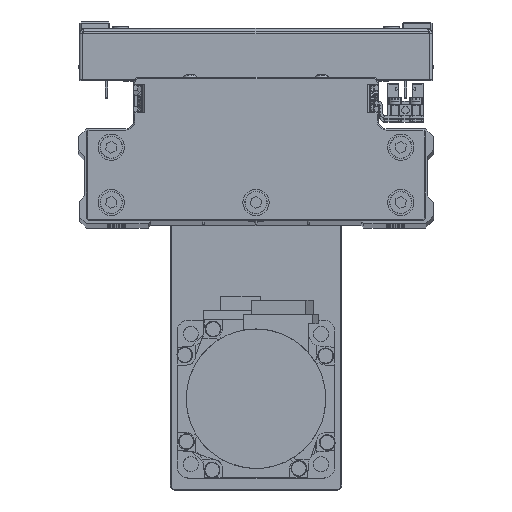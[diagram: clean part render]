
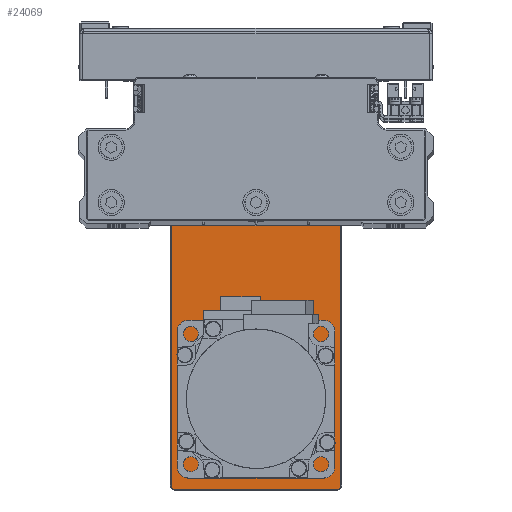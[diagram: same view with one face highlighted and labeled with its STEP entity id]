
A CAD part, top view. The second image highlights one B-rep face of the part: STEP entity #24069.
In plain terms, the highlighted planar face has unit normal (0, 0, 1) as drawn and (0, 1, 0) by its records, which use the part's own axes.
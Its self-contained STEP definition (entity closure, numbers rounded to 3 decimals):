
#402 = CARTESIAN_POINT ( 'NONE',  ( -83.5, 6., 32.2 ) ) ;
#482 = CARTESIAN_POINT ( 'NONE',  ( -83.5, 6., -32.2 ) ) ;
#919 = EDGE_CURVE ( 'NONE', #9835, #16157, #43559, .T. ) ;
#1460 = DIRECTION ( 'NONE',  ( -1., 0., 0. ) ) ;
#1948 = ORIENTED_EDGE ( 'NONE', *, *, #11062, .F. ) ;
#2091 = ORIENTED_EDGE ( 'NONE', *, *, #23127, .T. ) ;
#2442 = EDGE_CURVE ( 'NONE', #38462, #9835, #29918, .T. ) ;
#2772 = EDGE_CURVE ( 'NONE', #26172, #25038, #18299, .T. ) ;
#3177 = CARTESIAN_POINT ( 'NONE',  ( -50.5, 6., 0. ) ) ;
#3279 = EDGE_LOOP ( 'NONE', ( #32937, #19871 ) ) ;
#3344 = VERTEX_POINT ( 'NONE', #482 ) ;
#3359 = CIRCLE ( 'NONE', #28524, 1.2 ) ;
#3902 = EDGE_LOOP ( 'NONE', ( #1948, #34225 ) ) ;
#3959 = EDGE_CURVE ( 'NONE', #25038, #26172, #16116, .T. ) ;
#4128 = VERTEX_POINT ( 'NONE', #26697 ) ;
#4259 = DIRECTION ( 'NONE',  ( 0., 0., -1. ) ) ;
#4936 = VECTOR ( 'NONE', #21776, 1000. ) ;
#5138 = EDGE_CURVE ( 'NONE', #14499, #10305, #26576, .T. ) ;
#5708 = DIRECTION ( 'NONE',  ( 0., 0., -1. ) ) ;
#6251 = DIRECTION ( 'NONE',  ( 0., 1., 0. ) ) ;
#6575 = VERTEX_POINT ( 'NONE', #39435 ) ;
#6668 = CARTESIAN_POINT ( 'NONE',  ( 75.992, 6., -8.551 ) ) ;
#6695 = CARTESIAN_POINT ( 'NONE',  ( 83.5, 6., -31. ) ) ;
#6897 = CARTESIAN_POINT ( 'NONE',  ( -50.5, 6., 0. ) ) ;
#7204 = AXIS2_PLACEMENT_3D ( 'NONE', #3177, #16912, #30634 ) ;
#8076 = CARTESIAN_POINT ( 'NONE',  ( 84.7, 6., 0. ) ) ;
#8118 = VECTOR ( 'NONE', #1460, 1000. ) ;
#8325 = DIRECTION ( 'NONE',  ( 0., 1., 0. ) ) ;
#8755 = EDGE_LOOP ( 'NONE', ( #9513, #40904 ) ) ;
#9080 = PLANE ( 'NONE',  #12822 ) ;
#9175 = CIRCLE ( 'NONE', #34316, 15. ) ;
#9513 = ORIENTED_EDGE ( 'NONE', *, *, #43411, .F. ) ;
#9835 = VERTEX_POINT ( 'NONE', #35256 ) ;
#10305 = VERTEX_POINT ( 'NONE', #39427 ) ;
#10536 = EDGE_CURVE ( 'NONE', #3344, #20674, #3359, .T. ) ;
#10623 = CARTESIAN_POINT ( 'NONE',  ( 83.5, 6., 31. ) ) ;
#11032 = EDGE_CURVE ( 'NONE', #14618, #6575, #17055, .T. ) ;
#11062 = EDGE_CURVE ( 'NONE', #10305, #14499, #9175, .T. ) ;
#11619 = VERTEX_POINT ( 'NONE', #26128 ) ;
#11686 = ORIENTED_EDGE ( 'NONE', *, *, #2442, .T. ) ;
#11909 = CARTESIAN_POINT ( 'NONE',  ( 61.051, 6., 23.492 ) ) ;
#12229 = DIRECTION ( 'NONE',  ( 0., 1., 0. ) ) ;
#12476 = FACE_BOUND ( 'NONE', #3279, .T. ) ;
#12570 = CARTESIAN_POINT ( 'NONE',  ( 52.5, 6., 0. ) ) ;
#12752 = AXIS2_PLACEMENT_3D ( 'NONE', #37078, #6251, #19973 ) ;
#12822 = AXIS2_PLACEMENT_3D ( 'NONE', #22787, #36538, #5708 ) ;
#12840 = DIRECTION ( 'NONE',  ( 1., 0., 0. ) ) ;
#12980 = EDGE_CURVE ( 'NONE', #20674, #40880, #16223, .T. ) ;
#13479 = CARTESIAN_POINT ( 'NONE',  ( -83.5, 6., -31. ) ) ;
#14499 = VERTEX_POINT ( 'NONE', #30618 ) ;
#14618 = VERTEX_POINT ( 'NONE', #18028 ) ;
#15913 = EDGE_CURVE ( 'NONE', #6575, #3344, #18564, .T. ) ;
#16116 = CIRCLE ( 'NONE', #21856, 1.525 ) ;
#16157 = VERTEX_POINT ( 'NONE', #17566 ) ;
#16223 = LINE ( 'NONE', #29933, #29305 ) ;
#16613 = AXIS2_PLACEMENT_3D ( 'NONE', #43063, #12229, #25936 ) ;
#16912 = DIRECTION ( 'NONE',  ( 0., 1., 0. ) ) ;
#17055 = CIRCLE ( 'NONE', #42249, 1.2 ) ;
#17566 = CARTESIAN_POINT ( 'NONE',  ( 84.7, 6., 31. ) ) ;
#18028 = CARTESIAN_POINT ( 'NONE',  ( 84.7, 6., -31. ) ) ;
#18299 = CIRCLE ( 'NONE', #43462, 1.525 ) ;
#18564 = LINE ( 'NONE', #32299, #8118 ) ;
#19330 = AXIS2_PLACEMENT_3D ( 'NONE', #6668, #20368, #34106 ) ;
#19394 = VERTEX_POINT ( 'NONE', #26105 ) ;
#19854 = ORIENTED_EDGE ( 'NONE', *, *, #11032, .T. ) ;
#19871 = ORIENTED_EDGE ( 'NONE', *, *, #27622, .T. ) ;
#19973 = DIRECTION ( 'NONE',  ( 0., 0., -1. ) ) ;
#20368 = DIRECTION ( 'NONE',  ( 0., 1., 0. ) ) ;
#20396 = DIRECTION ( 'NONE',  ( 0., 1., 0. ) ) ;
#20605 = DIRECTION ( 'NONE',  ( 0., 1., 0. ) ) ;
#20674 = VERTEX_POINT ( 'NONE', #22467 ) ;
#20681 = AXIS2_PLACEMENT_3D ( 'NONE', #21350, #35102, #4259 ) ;
#21350 = CARTESIAN_POINT ( 'NONE',  ( 52.5, 6., 0. ) ) ;
#21481 = CARTESIAN_POINT ( 'NONE',  ( 52.5, 6., 10.3 ) ) ;
#21672 = EDGE_LOOP ( 'NONE', ( #35924, #42289 ) ) ;
#21776 = DIRECTION ( 'NONE',  ( 0., 0., -1. ) ) ;
#21845 = EDGE_CURVE ( 'NONE', #32756, #11619, #40123, .T. ) ;
#21856 = AXIS2_PLACEMENT_3D ( 'NONE', #39181, #8325, #22019 ) ;
#22019 = DIRECTION ( 'NONE',  ( 0., 0., 1. ) ) ;
#22322 = AXIS2_PLACEMENT_3D ( 'NONE', #12570, #26268, #40025 ) ;
#22467 = CARTESIAN_POINT ( 'NONE',  ( -84.7, 6., -31. ) ) ;
#22787 = CARTESIAN_POINT ( 'NONE',  ( 0., 6., 0. ) ) ;
#23127 = EDGE_CURVE ( 'NONE', #40880, #38462, #32162, .T. ) ;
#23153 = VECTOR ( 'NONE', #12840, 1000. ) ;
#23750 = CARTESIAN_POINT ( 'NONE',  ( 61.051, 6., 25.017 ) ) ;
#23834 = ORIENTED_EDGE ( 'NONE', *, *, #919, .T. ) ;
#24069 = ADVANCED_FACE ( 'NONE', ( #29570, #43322, #12476, #26175, #39924 ), #9080, .F. ) ;
#24119 = AXIS2_PLACEMENT_3D ( 'NONE', #10623, #24329, #38097 ) ;
#24329 = DIRECTION ( 'NONE',  ( 0., 1., 0. ) ) ;
#25038 = VERTEX_POINT ( 'NONE', #23750 ) ;
#25617 = DIRECTION ( 'NONE',  ( 0., 1., 0. ) ) ;
#25936 = DIRECTION ( 'NONE',  ( 0., 0., 1. ) ) ;
#26105 = CARTESIAN_POINT ( 'NONE',  ( 75.992, 6., -10.076 ) ) ;
#26128 = CARTESIAN_POINT ( 'NONE',  ( 52.5, 6., -10.3 ) ) ;
#26172 = VERTEX_POINT ( 'NONE', #36882 ) ;
#26175 = FACE_OUTER_BOUND ( 'NONE', #38757, .T. ) ;
#26268 = DIRECTION ( 'NONE',  ( 0., -1., 0. ) ) ;
#26576 = CIRCLE ( 'NONE', #7204, 15. ) ;
#26697 = CARTESIAN_POINT ( 'NONE',  ( 75.992, 6., -7.026 ) ) ;
#27189 = DIRECTION ( 'NONE',  ( 0., 1., 0. ) ) ;
#27622 = EDGE_CURVE ( 'NONE', #11619, #32756, #41760, .T. ) ;
#28524 = AXIS2_PLACEMENT_3D ( 'NONE', #13479, #27189, #40961 ) ;
#29305 = VECTOR ( 'NONE', #43696, 1000. ) ;
#29570 = FACE_BOUND ( 'NONE', #21672, .T. ) ;
#29918 = LINE ( 'NONE', #43677, #23153 ) ;
#29933 = CARTESIAN_POINT ( 'NONE',  ( -84.7, 6., 0. ) ) ;
#30618 = CARTESIAN_POINT ( 'NONE',  ( -50.5, 6., -15. ) ) ;
#30634 = DIRECTION ( 'NONE',  ( 0., 0., 1. ) ) ;
#32162 = CIRCLE ( 'NONE', #12752, 1.2 ) ;
#32299 = CARTESIAN_POINT ( 'NONE',  ( 0., 6., -32.2 ) ) ;
#32756 = VERTEX_POINT ( 'NONE', #21481 ) ;
#32937 = ORIENTED_EDGE ( 'NONE', *, *, #21845, .T. ) ;
#33418 = ORIENTED_EDGE ( 'NONE', *, *, #43155, .T. ) ;
#34106 = DIRECTION ( 'NONE',  ( 0., 0., 1. ) ) ;
#34128 = DIRECTION ( 'NONE',  ( 0., 0., -1. ) ) ;
#34225 = ORIENTED_EDGE ( 'NONE', *, *, #5138, .F. ) ;
#34316 = AXIS2_PLACEMENT_3D ( 'NONE', #6897, #20605, #34357 ) ;
#34357 = DIRECTION ( 'NONE',  ( 0., 0., 1. ) ) ;
#34517 = ORIENTED_EDGE ( 'NONE', *, *, #12980, .T. ) ;
#35102 = DIRECTION ( 'NONE',  ( 0., -1., 0. ) ) ;
#35256 = CARTESIAN_POINT ( 'NONE',  ( 83.5, 6., 32.2 ) ) ;
#35540 = EDGE_CURVE ( 'NONE', #19394, #4128, #36027, .T. ) ;
#35924 = ORIENTED_EDGE ( 'NONE', *, *, #3959, .F. ) ;
#36027 = CIRCLE ( 'NONE', #16613, 1.525 ) ;
#36538 = DIRECTION ( 'NONE',  ( 0., -1., 0. ) ) ;
#36583 = ORIENTED_EDGE ( 'NONE', *, *, #15913, .T. ) ;
#36882 = CARTESIAN_POINT ( 'NONE',  ( 61.051, 6., 21.967 ) ) ;
#37078 = CARTESIAN_POINT ( 'NONE',  ( -83.5, 6., 31. ) ) ;
#38097 = DIRECTION ( 'NONE',  ( 0., 0., -1. ) ) ;
#38462 = VERTEX_POINT ( 'NONE', #402 ) ;
#38757 = EDGE_LOOP ( 'NONE', ( #19854, #36583, #41445, #34517, #2091, #11686, #23834, #33418 ) ) ;
#38767 = CIRCLE ( 'NONE', #19330, 1.525 ) ;
#38926 = LINE ( 'NONE', #8076, #4936 ) ;
#39181 = CARTESIAN_POINT ( 'NONE',  ( 61.051, 6., 23.492 ) ) ;
#39382 = DIRECTION ( 'NONE',  ( 0., 0., 1. ) ) ;
#39427 = CARTESIAN_POINT ( 'NONE',  ( -50.5, 6., 15. ) ) ;
#39435 = CARTESIAN_POINT ( 'NONE',  ( 83.5, 6., -32.2 ) ) ;
#39924 = FACE_BOUND ( 'NONE', #3902, .T. ) ;
#40025 = DIRECTION ( 'NONE',  ( 0., 0., -1. ) ) ;
#40123 = CIRCLE ( 'NONE', #20681, 10.3 ) ;
#40880 = VERTEX_POINT ( 'NONE', #42615 ) ;
#40904 = ORIENTED_EDGE ( 'NONE', *, *, #35540, .F. ) ;
#40961 = DIRECTION ( 'NONE',  ( 0., 0., -1. ) ) ;
#41445 = ORIENTED_EDGE ( 'NONE', *, *, #10536, .T. ) ;
#41760 = CIRCLE ( 'NONE', #22322, 10.3 ) ;
#42249 = AXIS2_PLACEMENT_3D ( 'NONE', #6695, #20396, #34128 ) ;
#42289 = ORIENTED_EDGE ( 'NONE', *, *, #2772, .F. ) ;
#42615 = CARTESIAN_POINT ( 'NONE',  ( -84.7, 6., 31. ) ) ;
#43063 = CARTESIAN_POINT ( 'NONE',  ( 75.992, 6., -8.551 ) ) ;
#43155 = EDGE_CURVE ( 'NONE', #16157, #14618, #38926, .T. ) ;
#43322 = FACE_BOUND ( 'NONE', #8755, .T. ) ;
#43411 = EDGE_CURVE ( 'NONE', #4128, #19394, #38767, .T. ) ;
#43462 = AXIS2_PLACEMENT_3D ( 'NONE', #11909, #25617, #39382 ) ;
#43559 = CIRCLE ( 'NONE', #24119, 1.2 ) ;
#43677 = CARTESIAN_POINT ( 'NONE',  ( 0., 6., 32.2 ) ) ;
#43696 = DIRECTION ( 'NONE',  ( 0., 0., 1. ) ) ;
